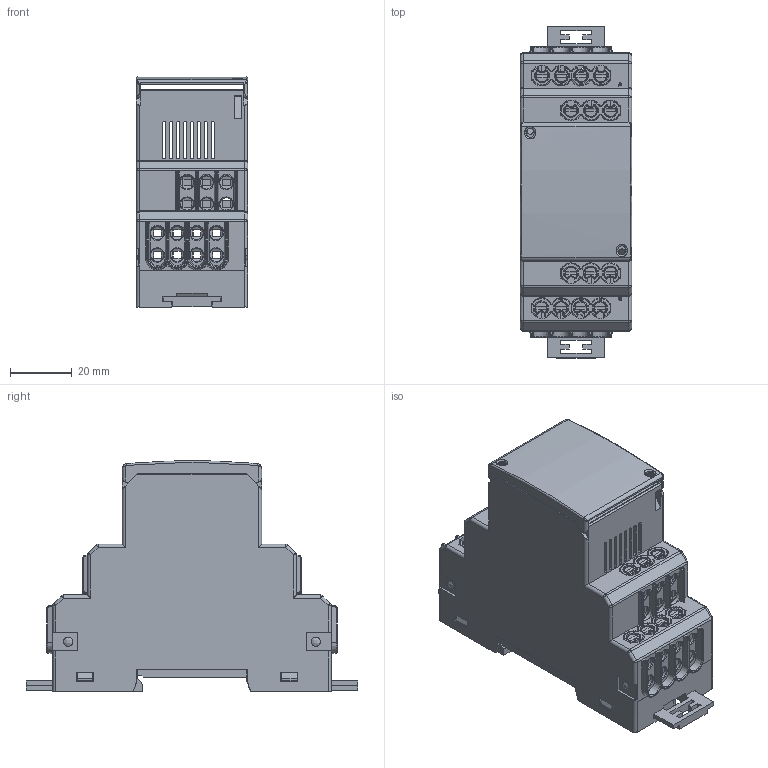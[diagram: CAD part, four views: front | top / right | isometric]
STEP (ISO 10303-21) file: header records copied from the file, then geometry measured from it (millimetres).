
FILE_DESCRIPTION (( 'STEP AP214' ), '1' );
FILE_NAME ('XM420.STEP', '2016-04-20T06:05:39', ( 'User' ), ( 'Bender' ), 'SwSTEP 2.0', 'SolidWorks 2016', '' );
FILE_SCHEMA (( 'AUTOMOTIVE_DESIGN' ));
Length unit declared in the file: millimetre
Products named in the file (2): XM420
Assembly tree (1 placements, depth 2):
  XM420
    XM420
Bounding box: 36 x 107.3 x 74.46 mm (x, y, z)
Surface area: 35717.4 mm2 (no closed solid volume)
Topology: 0 solids, 19 shells, 1431 faces, 4721 edges, 3208 vertices
Faces by surface type: plane 689, cylinder 402, bspline 109, cone 98, torus 98, sphere 35
Full cylindrical faces by diameter (mm): 2 x9
Entity records: 71279 total; most frequent: CARTESIAN_POINT 17160, DIRECTION 7577, ORIENTED_EDGE 7446, EDGE_CURVE 4573, VERTEX_POINT 3166, LINE 2877, VECTOR 2877, AXIS2_PLACEMENT_3D 2350
